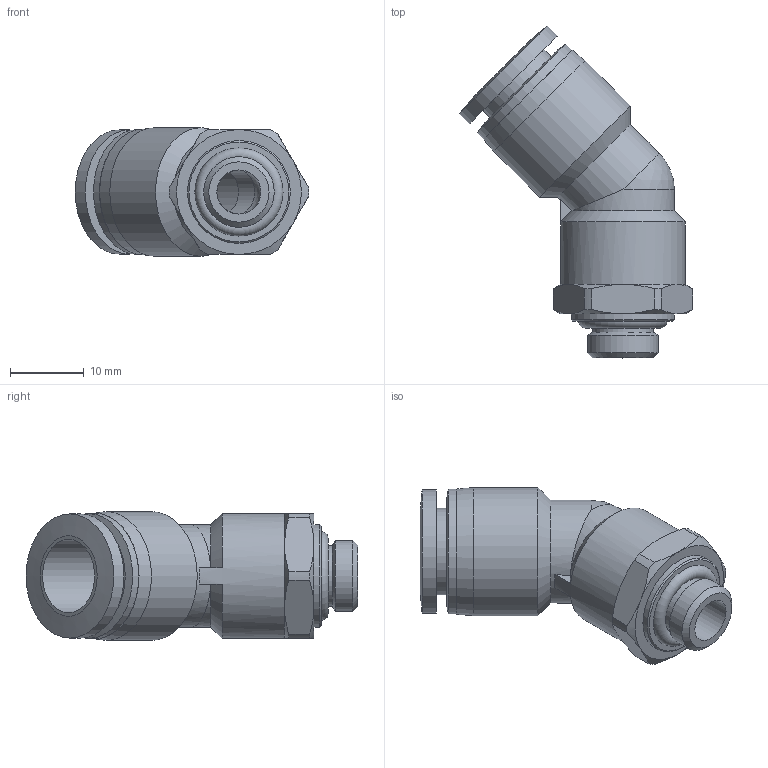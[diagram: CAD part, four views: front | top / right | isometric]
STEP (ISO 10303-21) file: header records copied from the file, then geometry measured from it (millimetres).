
FILE_DESCRIPTION(/* description */ (''),/* implementation_level */ '2;1');
FILE_NAME(/* name */ 'D:\CDC pneumatics\inventor\PL 45\G 나사\PL 45 10-G01.stp',/* time_stamp */ '2015-11-17T08:29:27+09:00',/* author */ ('DIAMOND'),/* organization */ (''),/* preprocessor_version */ 'ST-DEVELOPER v15.6',/* originating_system */ 'Autodesk Inventor 2015',/* authorisation */ '');
FILE_SCHEMA (('AUTOMOTIVE_DESIGN { 1 0 10303 214 3 1 1 }'));
Length unit declared in the file: millimetre
Products named in the file (1): PL 45 10-G01
Bounding box: 31.77 x 45.17 x 17.5 mm (x, y, z)
Volume: 6611.2 mm3; surface area: 4125 mm2
Topology: 1 solids, 1 shells, 60 faces, 129 edges, 77 vertices
Faces by surface type: cone 22, cylinder 19, plane 16, sphere 2, torus 1
Full cylindrical faces by diameter (mm): 6 x2, 8.2 x1, 9.6 x1, 10 x1, 11.8 x1, 14 x3, 16.9 x1, 17 x2, 17.5 x1
Entity records: 1489 total; most frequent: CARTESIAN_POINT 287, DIRECTION 265, ORIENTED_EDGE 212, AXIS2_PLACEMENT_3D 123, EDGE_CURVE 105, EDGE_LOOP 88, VERTEX_POINT 73, FACE_OUTER_BOUND 60
